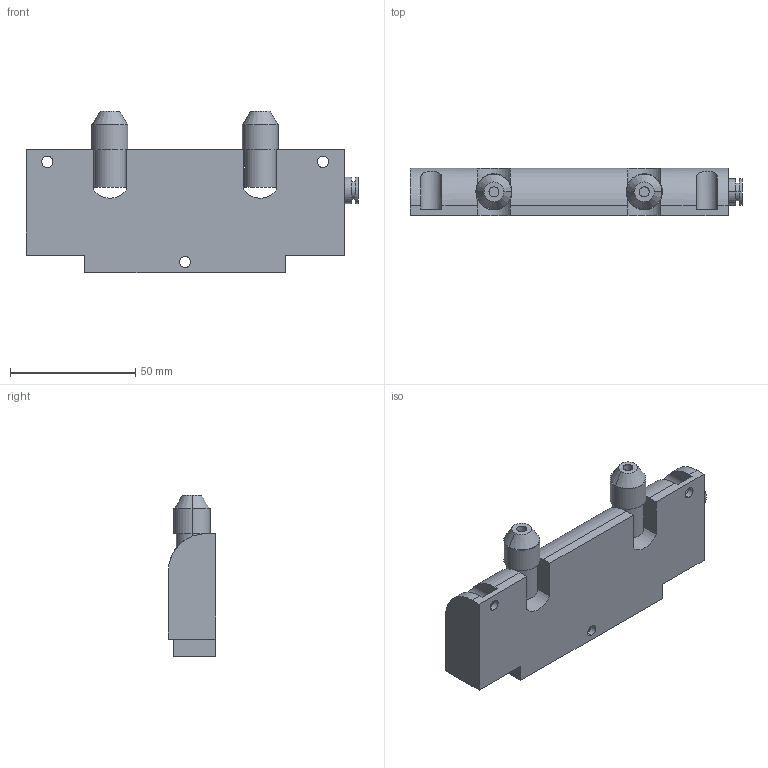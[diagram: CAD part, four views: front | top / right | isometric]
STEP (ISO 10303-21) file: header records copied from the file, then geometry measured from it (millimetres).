
FILE_DESCRIPTION (( 'STEP AP203' ), '1' );
FILE_NAME ('ER-VW.STEP', '2005-09-06T02:42:35', ( '' ), ( '' ), 'SwSTEP 2.0', 'SolidWorks 2004073', '' );
FILE_SCHEMA (( 'CONFIG_CONTROL_DESIGN' ));
Length unit declared in the file: millimetre
Products named in the file (1): ER-VW
Bounding box: 132.5 x 18.9 x 64.35 mm (x, y, z)
Volume: 101513.3 mm3; surface area: 22358.4 mm2
Topology: 3 solids, 3 shells, 80 faces, 192 edges, 128 vertices
Faces by surface type: plane 41, cylinder 35, cone 4
Entity records: 2511 total; most frequent: CARTESIAN_POINT 473, DIRECTION 434, ORIENTED_EDGE 384, EDGE_CURVE 192, AXIS2_PLACEMENT_3D 163, VERTEX_POINT 128, VECTOR 108, LINE 108
